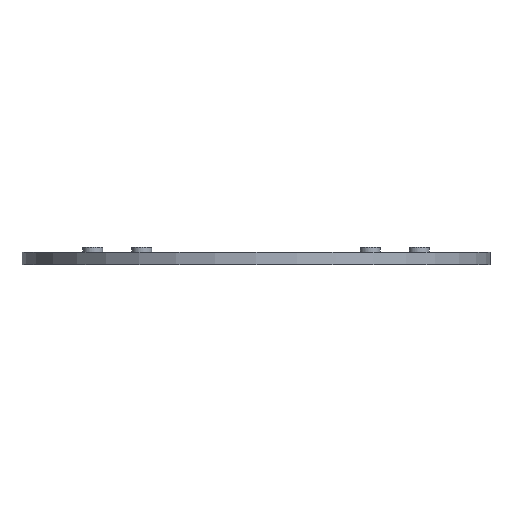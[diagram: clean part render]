
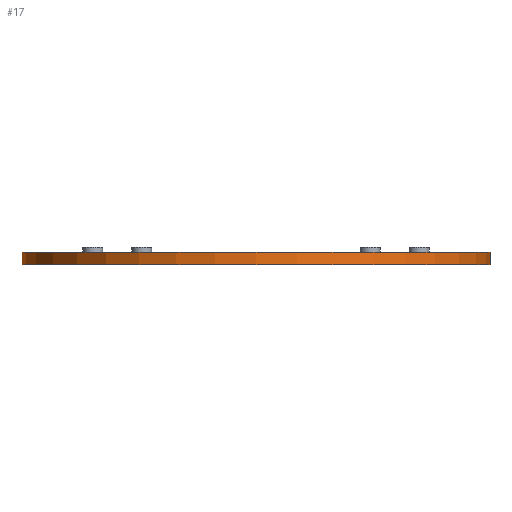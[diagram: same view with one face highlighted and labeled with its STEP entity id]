
A CAD part, front view. The second image highlights one B-rep face of the part: STEP entity #17.
In plain terms, the highlighted cylindrical face has radius 470 mm (diameter 940 mm), a full revolution.
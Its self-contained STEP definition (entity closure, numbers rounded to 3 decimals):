
#17 = ADVANCED_FACE('',(#18),#32,.T.);
#18 = FACE_BOUND('',#19,.F.);
#19 = EDGE_LOOP('',(#20,#50,#77,#78));
#20 = ORIENTED_EDGE('',*,*,#21,.T.);
#21 = EDGE_CURVE('',#22,#24,#26,.T.);
#22 = VERTEX_POINT('',#23);
#23 = CARTESIAN_POINT('',(470.,0.,-425.));
#24 = VERTEX_POINT('',#25);
#25 = CARTESIAN_POINT('',(470.,0.,-400.));
#26 = SEAM_CURVE('',#27,(#31,#43),.PCURVE_S1.);
#27 = LINE('',#28,#29);
#28 = CARTESIAN_POINT('',(470.,0.,-425.));
#29 = VECTOR('',#30,1.);
#30 = DIRECTION('',(0.,0.,1.));
#31 = PCURVE('',#32,#37);
#32 = CYLINDRICAL_SURFACE('',#33,470.);
#33 = AXIS2_PLACEMENT_3D('',#34,#35,#36);
#34 = CARTESIAN_POINT('',(0.,0.,-425.));
#35 = DIRECTION('',(-0.,-0.,-1.));
#36 = DIRECTION('',(1.,0.,0.));
#37 = DEFINITIONAL_REPRESENTATION('',(#38),#42);
#38 = LINE('',#39,#40);
#39 = CARTESIAN_POINT('',(-0.,0.));
#40 = VECTOR('',#41,1.);
#41 = DIRECTION('',(-0.,-1.));
#42 = ( GEOMETRIC_REPRESENTATION_CONTEXT(2) 
PARAMETRIC_REPRESENTATION_CONTEXT() REPRESENTATION_CONTEXT('2D SPACE',''
  ) );
#43 = PCURVE('',#32,#44);
#44 = DEFINITIONAL_REPRESENTATION('',(#45),#49);
#45 = LINE('',#46,#47);
#46 = CARTESIAN_POINT('',(-6.283,0.));
#47 = VECTOR('',#48,1.);
#48 = DIRECTION('',(-0.,-1.));
#49 = ( GEOMETRIC_REPRESENTATION_CONTEXT(2) 
PARAMETRIC_REPRESENTATION_CONTEXT() REPRESENTATION_CONTEXT('2D SPACE',''
  ) );
#50 = ORIENTED_EDGE('',*,*,#51,.T.);
#51 = EDGE_CURVE('',#24,#24,#52,.T.);
#52 = SURFACE_CURVE('',#53,(#58,#65),.PCURVE_S1.);
#53 = CIRCLE('',#54,470.);
#54 = AXIS2_PLACEMENT_3D('',#55,#56,#57);
#55 = CARTESIAN_POINT('',(0.,0.,-400.));
#56 = DIRECTION('',(0.,0.,1.));
#57 = DIRECTION('',(1.,0.,0.));
#58 = PCURVE('',#32,#59);
#59 = DEFINITIONAL_REPRESENTATION('',(#60),#64);
#60 = LINE('',#61,#62);
#61 = CARTESIAN_POINT('',(-0.,-25.));
#62 = VECTOR('',#63,1.);
#63 = DIRECTION('',(-1.,0.));
#64 = ( GEOMETRIC_REPRESENTATION_CONTEXT(2) 
PARAMETRIC_REPRESENTATION_CONTEXT() REPRESENTATION_CONTEXT('2D SPACE',''
  ) );
#65 = PCURVE('',#66,#71);
#66 = PLANE('',#67);
#67 = AXIS2_PLACEMENT_3D('',#68,#69,#70);
#68 = CARTESIAN_POINT('',(0.,0.,-400.)
  );
#69 = DIRECTION('',(0.,0.,1.));
#70 = DIRECTION('',(1.,0.,-0.));
#71 = DEFINITIONAL_REPRESENTATION('',(#72),#76);
#72 = CIRCLE('',#73,470.);
#73 = AXIS2_PLACEMENT_2D('',#74,#75);
#74 = CARTESIAN_POINT('',(0.,0.));
#75 = DIRECTION('',(1.,0.));
#76 = ( GEOMETRIC_REPRESENTATION_CONTEXT(2) 
PARAMETRIC_REPRESENTATION_CONTEXT() REPRESENTATION_CONTEXT('2D SPACE',''
  ) );
#77 = ORIENTED_EDGE('',*,*,#21,.F.);
#78 = ORIENTED_EDGE('',*,*,#79,.F.);
#79 = EDGE_CURVE('',#22,#22,#80,.T.);
#80 = SURFACE_CURVE('',#81,(#86,#93),.PCURVE_S1.);
#81 = CIRCLE('',#82,470.);
#82 = AXIS2_PLACEMENT_3D('',#83,#84,#85);
#83 = CARTESIAN_POINT('',(0.,0.,-425.));
#84 = DIRECTION('',(0.,0.,1.));
#85 = DIRECTION('',(1.,0.,0.));
#86 = PCURVE('',#32,#87);
#87 = DEFINITIONAL_REPRESENTATION('',(#88),#92);
#88 = LINE('',#89,#90);
#89 = CARTESIAN_POINT('',(-0.,0.));
#90 = VECTOR('',#91,1.);
#91 = DIRECTION('',(-1.,0.));
#92 = ( GEOMETRIC_REPRESENTATION_CONTEXT(2) 
PARAMETRIC_REPRESENTATION_CONTEXT() REPRESENTATION_CONTEXT('2D SPACE',''
  ) );
#93 = PCURVE('',#94,#99);
#94 = PLANE('',#95);
#95 = AXIS2_PLACEMENT_3D('',#96,#97,#98);
#96 = CARTESIAN_POINT('',(0.,0.,-425.)
  );
#97 = DIRECTION('',(0.,0.,1.));
#98 = DIRECTION('',(1.,0.,-0.));
#99 = DEFINITIONAL_REPRESENTATION('',(#100),#104);
#100 = CIRCLE('',#101,470.);
#101 = AXIS2_PLACEMENT_2D('',#102,#103);
#102 = CARTESIAN_POINT('',(0.,0.));
#103 = DIRECTION('',(1.,0.));
#104 = ( GEOMETRIC_REPRESENTATION_CONTEXT(2) 
PARAMETRIC_REPRESENTATION_CONTEXT() REPRESENTATION_CONTEXT('2D SPACE',''
  ) );
